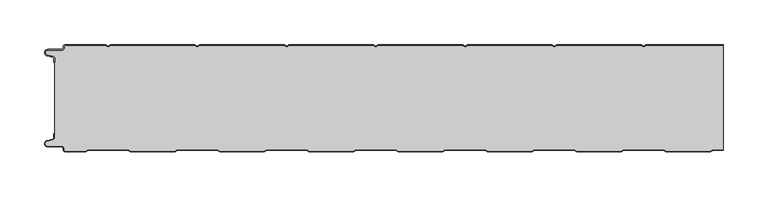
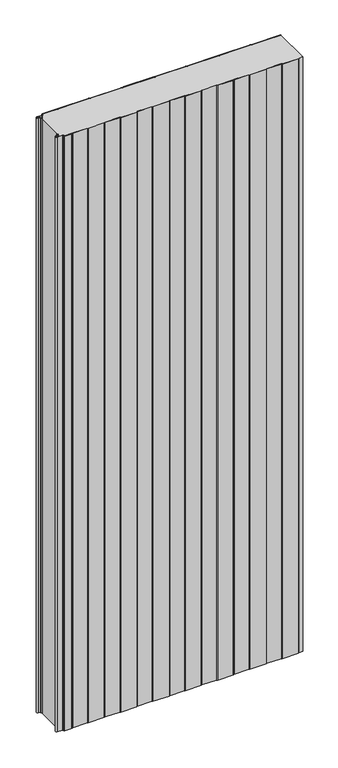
"""IFC4 building model written with IfcOpenShell, lengths in millimetres: plate geometry, PM1_Curtain-Panel_Perfil-Estándar : ACH_PM1_Panel-Acústico-Sectorización_120M."""

from ifc_helpers import new_model, si_unit, point, frame_2d, origin, origin_with_axes, place, context, project, spatial, polyline, circle_curve, trimmed, segment, composite_curve, outline, extrude, source, transform, mapped, element, save


def plate_4f92d4e1(model_context):
    return source(origin(), model_context, "Body", "SweptSolid", [
        extrude(outline(composite_curve([segment(trimmed(circle_curve(frame_2d((-377.0119739, -15.878557)), 2.0), [point((-375.0119739, -15.878557))], [point((-376.5620718, -13.9298169))], True, "CARTESIAN"), True, "CONTINUOUS"), segment(polyline([(-376.5620718, -13.9298169), (-382.7217978, -12.507732)]), True, "CONTINUOUS"), segment(trimmed(circle_curve(frame_2d((-381.9119739, -9.0)), 3.6), [point((-382.7217978, -12.507732))], [point((-381.9119739, -5.4))], False, "CARTESIAN"), True, "CONTINUOUS"), segment(polyline([(-381.9119739, -5.4), (-366.4119739, -5.4)]), True, "CONTINUOUS"), segment(trimmed(circle_curve(frame_2d((-366.4119739, -3.4)), 2.0), [point((-366.4119739, -5.4))], [point((-364.4119739, -3.4))], True, "CARTESIAN"), True, "CONTINUOUS"), segment(polyline([(-364.4119739, -3.4), (-364.4119739, -2.0)]), True, "CONTINUOUS"), segment(trimmed(circle_curve(frame_2d((-362.4119739, -2.0)), 2.0), [point((-364.4119739, -2.0))], [point((-362.4119739, 0.0))], False, "CARTESIAN"), True, "CONTINUOUS"), segment(polyline([(-362.4119739, 0.0), (-317.1119734, 0.0), (-314.4119739, -1.5588455), (-311.7119745, 0.0), (-217.1119734, 0.0), (-214.4119739, -1.5588455), (-211.7119745, 0.0), (-117.1119734, 0.0), (-114.4119739, -1.5588455), (-111.7119745, 0.0), (-17.1119734, 0.0), (-14.4119739, -1.5588455), (-11.7119745, 0.0), (82.8880266, 0.0), (85.5880261, -1.5588455), (88.2880255, 0.0), (182.8880266, 0.0), (185.5880261, -1.5588455), (188.2880255, 0.0), (282.8880266, 0.0), (285.5880261, -1.5588455), (288.2880255, 0.0), (375.0119739, 0.0), (375.0119739, -0.8), (288.5023849, -0.8), (285.5880261, -2.482606), (282.6736672, -0.8), (188.5023849, -0.8), (185.5880261, -2.482606), (182.6736672, -0.8), (88.5023849, -0.8), (85.5880261, -2.482606), (82.6736672, -0.8), (-11.4976151, -0.8), (-14.4119739, -2.482606), (-17.3263328, -0.8), (-111.4976151, -0.8), (-114.4119739, -2.482606), (-117.3263328, -0.8), (-211.4976151, -0.8), (-214.4119739, -2.482606), (-217.3263328, -0.8), (-311.4976151, -0.8), (-314.4119739, -2.482606), (-317.3263328, -0.8), (-362.4119739, -0.8)]), True, "CONTINUOUS"), segment(trimmed(circle_curve(frame_2d((-362.4119739, -2.0)), 1.2), [point((-362.4119739, -0.8))], [point((-363.6119739, -2.0))], True, "CARTESIAN"), True, "CONTINUOUS"), segment(polyline([(-363.6119739, -2.0), (-363.6119739, -3.4)]), True, "CONTINUOUS"), segment(trimmed(circle_curve(frame_2d((-366.4119739, -3.4)), 2.8), [point((-363.6119739, -3.4))], [point((-366.4119739, -6.2))], False, "CARTESIAN"), True, "CONTINUOUS"), segment(polyline([(-366.4119739, -6.2), (-381.9119739, -6.2)]), True, "CONTINUOUS"), segment(trimmed(circle_curve(frame_2d((-381.9119739, -9.0)), 2.8), [point((-381.9119739, -6.2))], [point((-382.541837, -11.7282362))], True, "CARTESIAN"), True, "CONTINUOUS"), segment(polyline([(-382.541837, -11.7282362), (-376.3821109, -13.150321)]), True, "CONTINUOUS"), segment(trimmed(circle_curve(frame_2d((-377.0119739, -15.878557)), 2.8), [point((-376.3821109, -13.150321))], [point((-374.2119739, -15.878557))], False, "CARTESIAN"), True, "CONTINUOUS"), segment(polyline([(-374.2119739, -15.878557), (-374.2119739, -20.0), (-375.0119739, -20.0), (-375.0119739, -15.878557)]), True, "CONTINUOUS")], self_intersect=False)), origin_with_axes(), (0.0, 0.0, 1.0), 1945.7507136),
        extrude(outline(composite_curve([segment(polyline([(-374.2119739, -104.121443), (-374.2119739, -15.8785573)]), True, "CONTINUOUS"), segment(trimmed(circle_curve(frame_2d((-377.0119739, -15.8785573)), 2.8), [point((-374.2119739, -15.8785573))], [point((-376.3821109, -13.1503212))], True, "CARTESIAN"), True, "CONTINUOUS"), segment(polyline([(-376.3821109, -13.1503212), (-382.541837, -11.7282362)]), True, "CONTINUOUS"), segment(trimmed(circle_curve(frame_2d((-381.911974, -9.0)), 2.8), [point((-382.541837, -11.7282362))], [point((-381.911974, -6.2))], False, "CARTESIAN"), True, "CONTINUOUS"), segment(polyline([(-381.911974, -6.2), (-366.411974, -6.2)]), True, "CONTINUOUS"), segment(trimmed(circle_curve(frame_2d((-366.411974, -3.4)), 2.8), [point((-366.411974, -6.2))], [point((-363.611974, -3.4))], True, "CARTESIAN"), True, "CONTINUOUS"), segment(polyline([(-363.611974, -3.4), (-363.611974, -2.0)]), True, "CONTINUOUS"), segment(trimmed(circle_curve(frame_2d((-362.411974, -2.0)), 1.2), [point((-363.611974, -2.0))], [point((-362.411974, -0.8))], False, "CARTESIAN"), True, "CONTINUOUS"), segment(polyline([(-362.411974, -0.8), (-317.3263329, -0.8), (-314.411974, -2.482606), (-311.4976152, -0.8), (-217.3263329, -0.8), (-214.411974, -2.482606), (-211.4976152, -0.8), (-117.3263329, -0.8), (-114.411974, -2.482606), (-111.4976152, -0.8), (-17.3263329, -0.8), (-14.411974, -2.482606), (-11.4976152, -0.8), (82.6736671, -0.8), (85.588026, -2.482606), (88.5023848, -0.8), (182.6736671, -0.8), (185.588026, -2.482606), (188.5023848, -0.8), (282.6736671, -0.8), (285.588026, -2.482606), (288.5023848, -0.8), (375.0119739, -0.8), (375.0119739, -117.7), (362.9717445, -117.7), (360.3736669, -119.2), (310.7985382, -119.2), (308.2004606, -117.7), (262.9717445, -117.7), (260.3736669, -119.2), (210.7985382, -119.2), (208.2004606, -117.7), (162.9717445, -117.7), (160.3736669, -119.2), (110.7985382, -119.2), (108.2004606, -117.7), (62.9717445, -117.7), (60.3736669, -119.2), (10.7985382, -119.2), (8.2004606, -117.7), (-37.0282555, -117.7), (-39.6263331, -119.2), (-89.2014618, -119.2), (-91.7995394, -117.7), (-137.0282555, -117.7), (-139.6263331, -119.2), (-189.2014618, -119.2), (-191.7995394, -117.7), (-237.0282555, -117.7), (-239.6263331, -119.2), (-289.2014618, -119.2), (-291.7995394, -117.7), (-337.0282555, -117.7), (-339.6263331, -119.2), (-362.4119739, -119.2)]), True, "CONTINUOUS"), segment(trimmed(circle_curve(frame_2d((-362.4119739, -118.0)), 1.2), [point((-362.4119739, -119.2))], [point((-363.6119739, -118.0))], False, "CARTESIAN"), True, "CONTINUOUS"), segment(polyline([(-363.6119739, -118.0), (-363.6119739, -116.5999998)]), True, "CONTINUOUS"), segment(trimmed(circle_curve(frame_2d((-366.4119739, -116.5999998)), 2.8), [point((-363.6119739, -116.5999998))], [point((-366.4119739, -113.7999998))], True, "CARTESIAN"), True, "CONTINUOUS"), segment(polyline([(-366.4119739, -113.7999998), (-381.9119739, -113.7999998)]), True, "CONTINUOUS"), segment(trimmed(circle_curve(frame_2d((-381.9119739, -111.0)), 2.7999998), [point((-381.9119739, -113.7999998))], [point((-382.5418369, -108.271764))], False, "CARTESIAN"), True, "CONTINUOUS"), segment(polyline([(-382.5418369, -108.271764), (-376.3821109, -106.8496792)]), True, "CONTINUOUS"), segment(trimmed(circle_curve(frame_2d((-377.0119739, -104.121443)), 2.8), [point((-376.3821109, -106.8496792))], [point((-374.2119739, -104.121443))], True, "CARTESIAN"), True, "CONTINUOUS")], self_intersect=False)), origin_with_axes(), (0.0, 0.0, 1.0), 1945.7507136),
        extrude(outline(composite_curve([segment(trimmed(circle_curve(frame_2d((-362.4119739, -118.0)), 2.0), [point((-362.4119739, -120.0))], [point((-364.4119739, -118.0))], False, "CARTESIAN"), True, "CONTINUOUS"), segment(polyline([(-364.4119739, -118.0), (-364.4119739, -116.6)]), True, "CONTINUOUS"), segment(trimmed(circle_curve(frame_2d((-366.4119739, -116.6)), 2.0), [point((-364.4119739, -116.6))], [point((-366.4119739, -114.6))], True, "CARTESIAN"), True, "CONTINUOUS"), segment(polyline([(-366.4119739, -114.6), (-381.9119739, -114.6)]), True, "CONTINUOUS"), segment(trimmed(circle_curve(frame_2d((-381.9119739, -111.0)), 3.6), [point((-381.9119739, -114.6))], [point((-382.7217979, -107.4922678))], False, "CARTESIAN"), True, "CONTINUOUS"), segment(polyline([(-382.7217979, -107.4922678), (-376.5620718, -106.070183)]), True, "CONTINUOUS"), segment(trimmed(circle_curve(frame_2d((-377.0119739, -104.121443)), 2.0), [point((-376.5620718, -106.070183))], [point((-375.0119739, -104.121443))], True, "CARTESIAN"), True, "CONTINUOUS"), segment(polyline([(-375.0119739, -104.121443), (-375.0119739, -100.0), (-374.2119739, -100.0), (-374.2119739, -104.121443)]), True, "CONTINUOUS"), segment(trimmed(circle_curve(frame_2d((-377.0119739, -104.121443)), 2.8), [point((-374.2119739, -104.121443))], [point((-376.3821109, -106.8496792))], False, "CARTESIAN"), True, "CONTINUOUS"), segment(polyline([(-376.3821109, -106.8496792), (-382.5418369, -108.271764)]), True, "CONTINUOUS"), segment(trimmed(circle_curve(frame_2d((-381.9119739, -111.0)), 2.8), [point((-382.5418369, -108.271764))], [point((-381.9119739, -113.8))], True, "CARTESIAN"), True, "CONTINUOUS"), segment(polyline([(-381.9119739, -113.8), (-366.4119739, -113.8)]), True, "CONTINUOUS"), segment(trimmed(circle_curve(frame_2d((-366.4119739, -116.6)), 2.8), [point((-366.4119739, -113.8))], [point((-363.6119739, -116.6))], False, "CARTESIAN"), True, "CONTINUOUS"), segment(polyline([(-363.6119739, -116.6), (-363.6119739, -118.0)]), True, "CONTINUOUS"), segment(trimmed(circle_curve(frame_2d((-362.4119739, -118.0)), 1.2), [point((-363.6119739, -118.0))], [point((-362.4119739, -119.2))], True, "CARTESIAN"), True, "CONTINUOUS"), segment(polyline([(-362.4119739, -119.2), (-339.6263331, -119.2), (-337.0282555, -117.7), (-291.7995394, -117.7), (-289.2014618, -119.2), (-239.6263331, -119.2), (-237.0282555, -117.7), (-191.7995394, -117.7), (-189.2014618, -119.2), (-139.6263331, -119.2), (-137.0282555, -117.7), (-91.7995394, -117.7), (-89.2014618, -119.2), (-39.6263331, -119.2), (-37.0282555, -117.7), (8.2004606, -117.7), (10.7985382, -119.2), (60.3736669, -119.2), (62.9717445, -117.7), (108.2004606, -117.7), (110.7985382, -119.2), (160.3736669, -119.2), (162.9717445, -117.7), (208.2004606, -117.7), (210.7985382, -119.2), (260.3736669, -119.2), (262.9717445, -117.7), (308.2004606, -117.7), (310.7985382, -119.2), (360.3736669, -119.2), (362.9717445, -117.7), (375.0119739, -117.7), (375.0119739, -118.5), (363.1861037, -118.5), (360.5880261, -120.0), (310.584179, -120.0), (307.9861014, -118.5), (263.1861037, -118.5), (260.5880261, -120.0), (210.584179, -120.0), (207.9861014, -118.5), (163.1861037, -118.5), (160.5880261, -120.0), (110.584179, -120.0), (107.9861014, -118.5), (63.1861037, -118.5), (60.5880261, -120.0), (10.584179, -120.0), (7.9861014, -118.5), (-36.8138963, -118.5), (-39.4119739, -120.0), (-89.415821, -120.0), (-92.0138986, -118.5), (-136.8138963, -118.5), (-139.4119739, -120.0), (-189.415821, -120.0), (-192.0138986, -118.5), (-236.8138963, -118.5), (-239.4119739, -120.0), (-289.415821, -120.0), (-292.0138986, -118.5), (-336.8138963, -118.5), (-339.4119739, -120.0), (-362.4119739, -120.0)]), True, "CONTINUOUS")], self_intersect=False)), origin_with_axes(), (0.0, 0.0, 1.0), 1945.7507136),
    ])


if __name__ == "__main__":
    model = new_model("IFC4")
    model_context = context("Model", 3, world=origin())
    ifc_project = project(units=[si_unit("LENGTHUNIT", "METRE", prefix="MILLI")], contexts=[model_context])
    site = spatial("IfcSite", under=ifc_project)
    building = spatial("IfcBuilding", under=site)
    placement = place(None, origin())
    plate_shape = plate_4f92d4e1(model_context)
    element("IfcPlate", 1, ObjectType="PM1_Curtain-Panel_Perfil-Estándar : ACH_PM1_Panel-Acústico-Sectorización_120M", at=placement, inside=building, context=model_context, shape_type="MappedRepresentation", body=[
        mapped(plate_shape, transform((0.0, 0.0, 0.0), x_axis=(1.0, 0.0, 0.0), y_axis=(0.0, 1.0, 0.0), z_axis=(0.0, 0.0, 1.0))),
    ])
    save(model, "model.ifc")
